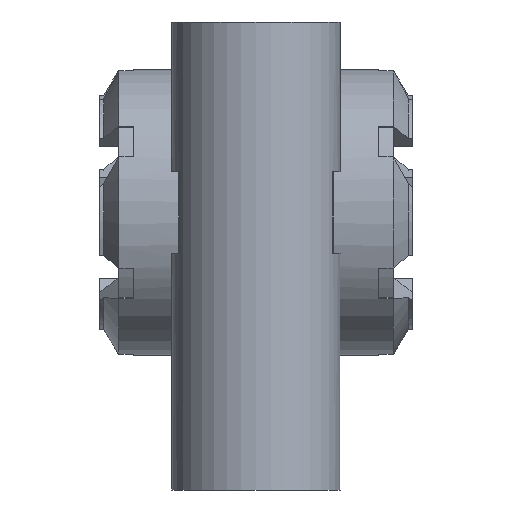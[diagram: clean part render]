
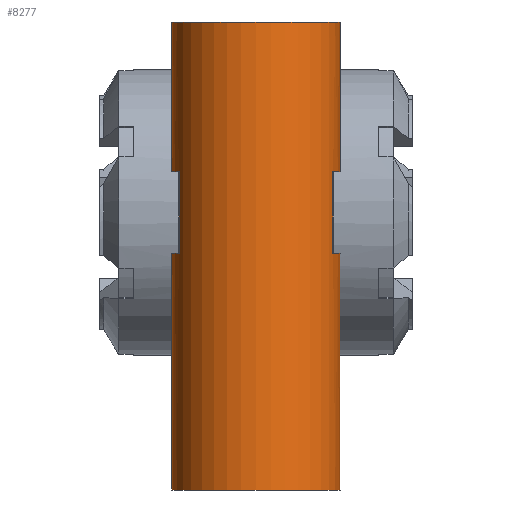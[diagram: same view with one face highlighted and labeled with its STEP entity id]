
A CAD part, front view. The second image highlights one B-rep face of the part: STEP entity #8277.
In plain terms, the highlighted cylindrical face has radius 31 mm (diameter 62 mm), a full revolution.
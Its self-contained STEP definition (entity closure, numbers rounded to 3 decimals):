
#753=CIRCLE('',#29727,31.);
#754=CIRCLE('',#29729,31.);
#755=CIRCLE('',#29730,31.);
#756=CIRCLE('',#29731,31.);
#757=CIRCLE('',#29732,31.);
#758=CIRCLE('',#29733,31.);
#3041=LINE('',#50118,#6232);
#3042=LINE('',#50123,#6233);
#3043=LINE('',#50129,#6234);
#3044=LINE('',#50133,#6235);
#3045=LINE('',#50134,#6236);
#3046=LINE('',#50147,#6237);
#6232=VECTOR('',#34639,1.);
#6233=VECTOR('',#34642,1.);
#6234=VECTOR('',#34647,1.);
#6235=VECTOR('',#34650,1.);
#6236=VECTOR('',#34651,1.);
#6237=VECTOR('',#34652,1.);
#6745=CYLINDRICAL_SURFACE('',#29734,31.);
#6936=FACE_BOUND('',#12173,.T.);
#6937=FACE_BOUND('',#12174,.T.);
#6938=FACE_BOUND('',#12175,.T.);
#6939=FACE_BOUND('',#12176,.T.);
#6940=FACE_BOUND('',#12177,.T.);
#8277=ADVANCED_FACE('',(#6936,#6937,#6938,#6939,#6940),#6745,.T.);
#12173=EDGE_LOOP('',(#19523));
#12174=EDGE_LOOP('',(#19524));
#12175=EDGE_LOOP('',(#19525,#19526,#19527,#19528));
#12176=EDGE_LOOP('',(#19529,#19530,#19531,#19532));
#12177=EDGE_LOOP('',(#19533,#19534,#19535,#19536));
#19523=ORIENTED_EDGE('',*,*,#26671,.T.);
#19524=ORIENTED_EDGE('',*,*,#26672,.T.);
#19525=ORIENTED_EDGE('',*,*,#26673,.F.);
#19526=ORIENTED_EDGE('',*,*,#26674,.T.);
#19527=ORIENTED_EDGE('',*,*,#26675,.F.);
#19528=ORIENTED_EDGE('',*,*,#26676,.T.);
#19529=ORIENTED_EDGE('',*,*,#26677,.T.);
#19530=ORIENTED_EDGE('',*,*,#26678,.F.);
#19531=ORIENTED_EDGE('',*,*,#26679,.T.);
#19532=ORIENTED_EDGE('',*,*,#26680,.F.);
#19533=ORIENTED_EDGE('',*,*,#26612,.F.);
#19534=ORIENTED_EDGE('',*,*,#26681,.F.);
#19535=ORIENTED_EDGE('',*,*,#26682,.F.);
#19536=ORIENTED_EDGE('',*,*,#26683,.F.);
#22751=VERTEX_POINT('',#47721);
#22752=VERTEX_POINT('',#47722);
#22793=VERTEX_POINT('',#50114);
#22794=VERTEX_POINT('',#50117);
#22795=VERTEX_POINT('',#50119);
#22796=VERTEX_POINT('',#50120);
#22797=VERTEX_POINT('',#50122);
#22798=VERTEX_POINT('',#50124);
#22799=VERTEX_POINT('',#50127);
#22800=VERTEX_POINT('',#50128);
#22801=VERTEX_POINT('',#50130);
#22802=VERTEX_POINT('',#50132);
#22803=VERTEX_POINT('',#50135);
#22804=VERTEX_POINT('',#50146);
#26612=EDGE_CURVE('',#22751,#22752,#28693,.T.);
#26671=EDGE_CURVE('',#22793,#22793,#753,.T.);
#26672=EDGE_CURVE('',#22794,#22794,#754,.T.);
#26673=EDGE_CURVE('',#22795,#22796,#3041,.T.);
#26674=EDGE_CURVE('',#22795,#22797,#755,.T.);
#26675=EDGE_CURVE('',#22798,#22797,#3042,.T.);
#26676=EDGE_CURVE('',#22798,#22796,#756,.T.);
#26677=EDGE_CURVE('',#22799,#22800,#757,.T.);
#26678=EDGE_CURVE('',#22801,#22800,#3043,.T.);
#26679=EDGE_CURVE('',#22801,#22802,#758,.T.);
#26680=EDGE_CURVE('',#22799,#22802,#3044,.T.);
#26681=EDGE_CURVE('',#22803,#22751,#3045,.T.);
#26682=EDGE_CURVE('',#22804,#22803,#28741,.T.);
#26683=EDGE_CURVE('',#22752,#22804,#3046,.T.);
#28693=B_SPLINE_CURVE_WITH_KNOTS('',3,(#47711,#47712,#47713,#47714,#47715,
#47716,#47717,#47718,#47719,#47720),.UNSPECIFIED.,.F.,.F.,(4,2,2,2,4),(0.,
0.25,0.5,0.75,1.),.UNSPECIFIED.);
#28741=B_SPLINE_CURVE_WITH_KNOTS('',3,(#50136,#50137,#50138,#50139,#50140,
#50141,#50142,#50143,#50144,#50145),.UNSPECIFIED.,.F.,.F.,(4,2,2,2,4),(0.,
0.25,0.5,0.75,1.),.UNSPECIFIED.);
#29727=AXIS2_PLACEMENT_3D('',#50113,#34633,#34634);
#29729=AXIS2_PLACEMENT_3D('',#50116,#34637,#34638);
#29730=AXIS2_PLACEMENT_3D('',#50121,#34640,#34641);
#29731=AXIS2_PLACEMENT_3D('',#50125,#34643,#34644);
#29732=AXIS2_PLACEMENT_3D('',#50126,#34645,#34646);
#29733=AXIS2_PLACEMENT_3D('',#50131,#34648,#34649);
#29734=AXIS2_PLACEMENT_3D('',#50148,#34653,#34654);
#34633=DIRECTION('',(0.,0.,-1.));
#34634=DIRECTION('',(-1.,0.,0.));
#34637=DIRECTION('',(0.,0.,1.));
#34638=DIRECTION('',(-1.,0.,0.));
#34639=DIRECTION('',(0.,0.,1.));
#34640=DIRECTION('',(0.,0.,-1.));
#34641=DIRECTION('',(1.,0.,0.));
#34642=DIRECTION('',(0.,0.,-1.));
#34643=DIRECTION('',(0.,0.,1.));
#34644=DIRECTION('',(0.915,-0.403,0.));
#34645=DIRECTION('',(0.,0.,-1.));
#34646=DIRECTION('',(-0.915,-0.403,0.));
#34647=DIRECTION('',(0.,0.,-1.));
#34648=DIRECTION('',(0.,0.,1.));
#34649=DIRECTION('',(-1.,0.,0.));
#34650=DIRECTION('',(0.,0.,1.));
#34651=DIRECTION('',(0.,0.,1.));
#34652=DIRECTION('',(0.,0.,-1.));
#34653=DIRECTION('',(0.,0.,1.));
#34654=DIRECTION('',(1.,0.,0.));
#47711=CARTESIAN_POINT('',(-13.304,8.5,6.928));
#47712=CARTESIAN_POINT('',(-12.039,9.101,9.358));
#47713=CARTESIAN_POINT('',(-10.156,9.885,11.363));
#47714=CARTESIAN_POINT('',(-5.563,11.089,14.189));
#47715=CARTESIAN_POINT('',(-2.805,11.498,14.996));
#47716=CARTESIAN_POINT('',(2.764,11.502,15.004));
#47717=CARTESIAN_POINT('',(5.501,11.103,14.22));
#47718=CARTESIAN_POINT('',(10.163,9.886,11.366));
#47719=CARTESIAN_POINT('',(12.039,9.101,9.358));
#47720=CARTESIAN_POINT('',(13.304,8.5,6.928));
#47721=CARTESIAN_POINT('',(-13.304,8.5,6.928));
#47722=CARTESIAN_POINT('',(13.304,8.5,6.928));
#50113=CARTESIAN_POINT('',(0.,-19.5,70.));
#50114=CARTESIAN_POINT('',(-31.,-19.5,70.));
#50116=CARTESIAN_POINT('',(0.,-19.5,-102.));
#50117=CARTESIAN_POINT('',(-31.,-19.5,-102.));
#50118=CARTESIAN_POINT('',(28.368,-7.,-15.));
#50119=CARTESIAN_POINT('',(28.368,-7.,-15.));
#50120=CARTESIAN_POINT('',(28.368,-7.,15.));
#50121=CARTESIAN_POINT('',(0.,-19.5,-15.));
#50122=CARTESIAN_POINT('',(28.368,-32.,-15.));
#50123=CARTESIAN_POINT('',(28.368,-32.,15.));
#50124=CARTESIAN_POINT('',(28.368,-32.,15.));
#50125=CARTESIAN_POINT('',(0.,-19.5,15.));
#50126=CARTESIAN_POINT('',(0.,-19.5,-15.));
#50127=CARTESIAN_POINT('',(-28.368,-32.,-15.));
#50128=CARTESIAN_POINT('',(-28.368,-7.,-15.));
#50129=CARTESIAN_POINT('',(-28.368,-7.,15.));
#50130=CARTESIAN_POINT('',(-28.368,-7.,15.));
#50131=CARTESIAN_POINT('',(0.,-19.5,15.));
#50132=CARTESIAN_POINT('',(-28.368,-32.,15.));
#50133=CARTESIAN_POINT('',(-28.368,-32.,-15.));
#50134=CARTESIAN_POINT('',(-13.304,8.5,-6.928));
#50135=CARTESIAN_POINT('',(-13.304,8.5,-6.928));
#50136=CARTESIAN_POINT('',(13.304,8.5,-6.928));
#50137=CARTESIAN_POINT('',(12.039,9.101,-9.358));
#50138=CARTESIAN_POINT('',(10.156,9.885,-11.363));
#50139=CARTESIAN_POINT('',(5.563,11.089,-14.189));
#50140=CARTESIAN_POINT('',(2.805,11.498,-14.996));
#50141=CARTESIAN_POINT('',(-2.764,11.502,-15.004));
#50142=CARTESIAN_POINT('',(-5.501,11.103,-14.22));
#50143=CARTESIAN_POINT('',(-10.163,9.886,-11.366));
#50144=CARTESIAN_POINT('',(-12.039,9.101,-9.358));
#50145=CARTESIAN_POINT('',(-13.304,8.5,-6.928));
#50146=CARTESIAN_POINT('',(13.304,8.5,-6.928));
#50147=CARTESIAN_POINT('',(13.304,8.5,6.928));
#50148=CARTESIAN_POINT('',(0.,-19.5,-110.6));
